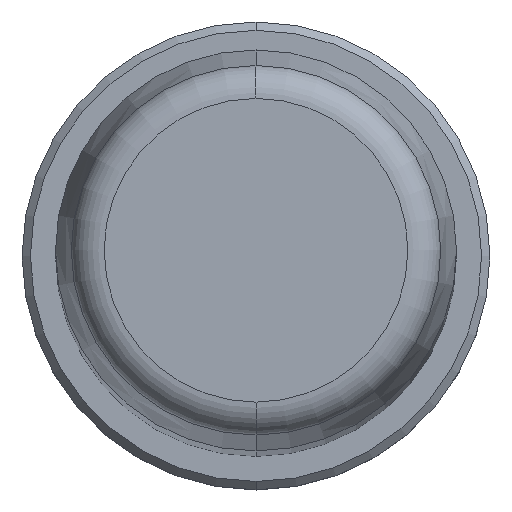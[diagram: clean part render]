
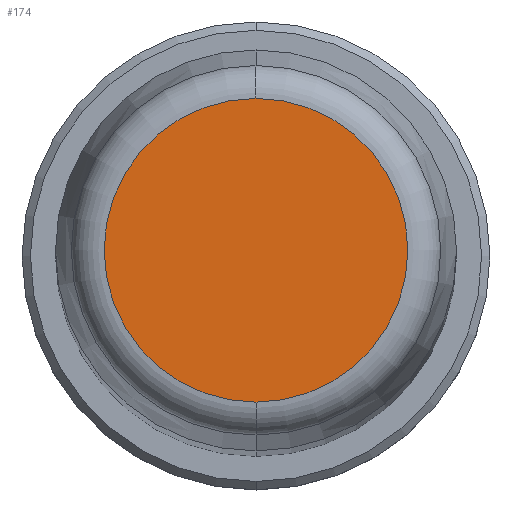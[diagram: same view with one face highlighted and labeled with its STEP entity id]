
A CAD part, top view. The second image highlights one B-rep face of the part: STEP entity #174.
In plain terms, the highlighted planar face has unit normal (0, 0, 1).
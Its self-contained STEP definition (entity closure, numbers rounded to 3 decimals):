
#1=CARTESIAN_POINT('',(0.,0.,200.));
#2=DIRECTION('',(0.,0.,-1.));
#3=DIRECTION('',(0.,-1.,0.));
#4=AXIS2_PLACEMENT_3D('',#1,#2,#3);
#6=CARTESIAN_POINT('',(0.,0.,200.));
#7=DIRECTION('',(0.,0.,-1.));
#8=DIRECTION('',(0.,1.,0.));
#9=AXIS2_PLACEMENT_3D('',#6,#7,#8);
#159=CARTESIAN_POINT('',(0.,-9.088,200.));
#160=CARTESIAN_POINT('',(0.,9.088,200.));
#161=VERTEX_POINT('',#159);
#162=VERTEX_POINT('',#160);
#163=CARTESIAN_POINT('',(0.,0.,200.));
#164=DIRECTION('',(0.,0.,1.));
#165=DIRECTION('',(0.,-1.,0.));
#166=AXIS2_PLACEMENT_3D('',#163,#164,#165);
#167=PLANE('',#166);
#169=ORIENTED_EDGE('',*,*,#168,.T.);
#171=ORIENTED_EDGE('',*,*,#170,.T.);
#172=EDGE_LOOP('',(#169,#171));
#173=FACE_OUTER_BOUND('',#172,.F.);
#174=ADVANCED_FACE('',(#173),#167,.T.);
#5=CIRCLE('',#4,9.088);
#10=CIRCLE('',#9,9.088);
#168=EDGE_CURVE('',#161,#162,#5,.T.);
#170=EDGE_CURVE('',#162,#161,#10,.T.);
